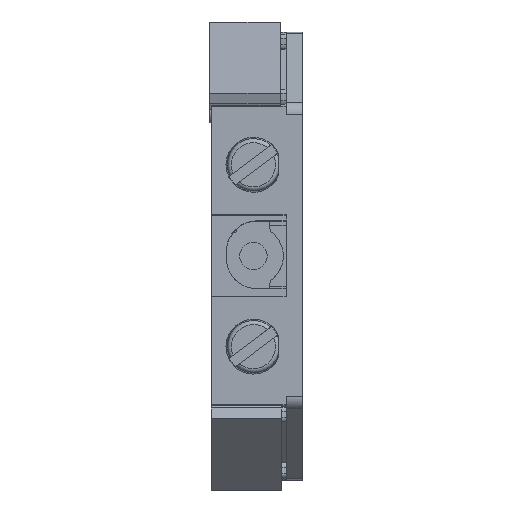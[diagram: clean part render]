
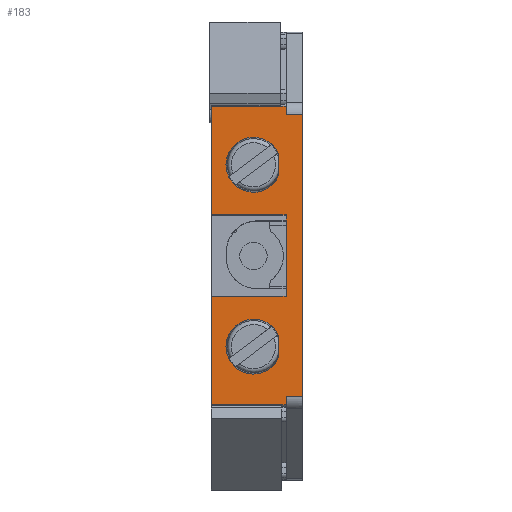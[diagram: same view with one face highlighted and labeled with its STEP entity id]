
A CAD part, top view. The second image highlights one B-rep face of the part: STEP entity #183.
In plain terms, the highlighted planar face has unit normal (0, 0, 1).
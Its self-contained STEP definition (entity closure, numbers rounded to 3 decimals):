
#183=ADVANCED_FACE('',(#21103,#21105,#21107),#21109,.T.);
#21103=FACE_BOUND('',#21104,.T.);
#21104=EDGE_LOOP('',(#37549,#37550,#37551,#37552,#37553,#37554,#37555,#37556,#37557,
#37558,#37559,#37560));
#21105=FACE_BOUND('',#21106,.T.);
#21106=EDGE_LOOP('',(#37561,#37562));
#21107=FACE_BOUND('',#21108,.T.);
#21108=EDGE_LOOP('',(#37563,#37564));
#21109=PLANE('',#21110);
#21110=AXIS2_PLACEMENT_3D('',#21111,#21112,#21113);
#21111=CARTESIAN_POINT('',(0.,-3.,19.));
#21112=DIRECTION('',(-0.,0.,1.));
#21113=DIRECTION('',(0.,-1.,0.));
#37549=ORIENTED_EDGE('',*,*,#51071,.T.);
#37550=ORIENTED_EDGE('',*,*,#51072,.T.);
#37551=ORIENTED_EDGE('',*,*,#51073,.F.);
#37552=ORIENTED_EDGE('',*,*,#51074,.T.);
#37553=ORIENTED_EDGE('',*,*,#51075,.F.);
#37554=ORIENTED_EDGE('',*,*,#51076,.F.);
#37555=ORIENTED_EDGE('',*,*,#51077,.F.);
#37556=ORIENTED_EDGE('',*,*,#51078,.F.);
#37557=ORIENTED_EDGE('',*,*,#51079,.T.);
#37558=ORIENTED_EDGE('',*,*,#51080,.T.);
#37559=ORIENTED_EDGE('',*,*,#51081,.T.);
#37560=ORIENTED_EDGE('',*,*,#51082,.F.);
#37561=ORIENTED_EDGE('',*,*,#51070,.T.);
#37562=ORIENTED_EDGE('',*,*,#51026,.T.);
#37563=ORIENTED_EDGE('',*,*,#51083,.T.);
#37564=ORIENTED_EDGE('',*,*,#51084,.T.);
#51026=EDGE_CURVE('',#57813,#57811,#57814,.F.);
#51070=EDGE_CURVE('',#57811,#57813,#57892,.F.);
#51071=EDGE_CURVE('',#57893,#57894,#57895,.T.);
#51072=EDGE_CURVE('',#57894,#57896,#57897,.T.);
#51073=EDGE_CURVE('',#57898,#57896,#57899,.T.);
#51074=EDGE_CURVE('',#57898,#57900,#57901,.T.);
#51075=EDGE_CURVE('',#57902,#57900,#57903,.T.);
#51076=EDGE_CURVE('',#57904,#57902,#57905,.T.);
#51077=EDGE_CURVE('',#57906,#57904,#57907,.T.);
#51078=EDGE_CURVE('',#57908,#57906,#57909,.T.);
#51079=EDGE_CURVE('',#57908,#57910,#57911,.T.);
#51080=EDGE_CURVE('',#57910,#57912,#57913,.T.);
#51081=EDGE_CURVE('',#57912,#57914,#57915,.T.);
#51082=EDGE_CURVE('',#57893,#57914,#57916,.T.);
#51083=EDGE_CURVE('',#57917,#57918,#57919,.F.);
#51084=EDGE_CURVE('',#57918,#57917,#57920,.F.);
#57811=VERTEX_POINT('',#69192);
#57813=VERTEX_POINT('',#69196);
#57814=LINE('',#69197,#69198);
#57892=CIRCLE('',#69576,2.025);
#57893=VERTEX_POINT('',#69580);
#57894=VERTEX_POINT('',#69581);
#57895=LINE('',#69582,#69583);
#57896=VERTEX_POINT('',#69585);
#57897=LINE('',#69586,#69587);
#57898=VERTEX_POINT('',#69589);
#57899=LINE('',#69590,#69591);
#57900=VERTEX_POINT('',#69593);
#57901=LINE('',#69594,#69595);
#57902=VERTEX_POINT('',#69597);
#57903=LINE('',#69598,#69599);
#57904=VERTEX_POINT('',#69601);
#57905=LINE('',#69602,#69603);
#57906=VERTEX_POINT('',#69605);
#57907=LINE('',#69606,#69607);
#57908=VERTEX_POINT('',#69609);
#57909=LINE('',#69610,#69611);
#57910=VERTEX_POINT('',#69613);
#57911=LINE('',#69614,#69615);
#57912=VERTEX_POINT('',#69617);
#57913=LINE('',#69618,#69619);
#57914=VERTEX_POINT('',#69621);
#57915=LINE('',#69622,#69623);
#57916=LINE('',#69625,#69626);
#57917=VERTEX_POINT('',#69628);
#57918=VERTEX_POINT('',#69629);
#57919=CIRCLE('',#69630,2.025);
#57920=LINE('',#69634,#69635);
#69192=CARTESIAN_POINT('',(4.95,-7.523,19.));
#69196=CARTESIAN_POINT('',(4.95,-5.877,19.));
#69197=CARTESIAN_POINT('',(4.95,-7.523,19.));
#69198=VECTOR('',#69199,1.);
#69199=DIRECTION('',(0.,1.,0.));
#69576=AXIS2_PLACEMENT_3D('',#69577,#69578,#69579);
#69577=CARTESIAN_POINT('',(3.1,-6.7,19.));
#69578=DIRECTION('',(-0.,0.,1.));
#69579=DIRECTION('',(0.914,0.407,0.));
#69580=CARTESIAN_POINT('',(0.,-3.,19.));
#69581=CARTESIAN_POINT('',(0.,-11.,19.));
#69582=CARTESIAN_POINT('',(0.,-3.,19.));
#69583=VECTOR('',#69584,1.);
#69584=DIRECTION('',(0.,-1.,0.));
#69585=CARTESIAN_POINT('',(5.5,-11.,19.));
#69586=CARTESIAN_POINT('',(0.,-11.,19.));
#69587=VECTOR('',#69588,1.);
#69588=DIRECTION('',(1.,0.,0.));
#69589=CARTESIAN_POINT('',(5.5,-10.398,19.));
#69590=CARTESIAN_POINT('',(5.5,-10.398,19.));
#69591=VECTOR('',#69592,1.);
#69592=DIRECTION('',(0.,-1.,0.));
#69593=CARTESIAN_POINT('',(6.7,-10.398,19.));
#69594=CARTESIAN_POINT('',(5.5,-10.398,19.));
#69595=VECTOR('',#69596,1.);
#69596=DIRECTION('',(1.,0.,0.));
#69597=CARTESIAN_POINT('',(6.7,10.398,19.));
#69598=CARTESIAN_POINT('',(6.7,10.398,19.));
#69599=VECTOR('',#69600,1.);
#69600=DIRECTION('',(0.,-1.,0.));
#69601=CARTESIAN_POINT('',(5.5,10.398,19.));
#69602=CARTESIAN_POINT('',(5.5,10.398,19.));
#69603=VECTOR('',#69604,1.);
#69604=DIRECTION('',(1.,0.,0.));
#69605=CARTESIAN_POINT('',(5.5,11.,19.));
#69606=CARTESIAN_POINT('',(5.5,11.,19.));
#69607=VECTOR('',#69608,1.);
#69608=DIRECTION('',(0.,-1.,0.));
#69609=CARTESIAN_POINT('',(0.,11.,19.));
#69610=CARTESIAN_POINT('',(0.,11.,19.));
#69611=VECTOR('',#69612,1.);
#69612=DIRECTION('',(1.,0.,0.));
#69613=CARTESIAN_POINT('',(0.,3.,19.));
#69614=CARTESIAN_POINT('',(0.,11.,19.));
#69615=VECTOR('',#69616,1.);
#69616=DIRECTION('',(0.,-1.,0.));
#69617=CARTESIAN_POINT('',(5.5,3.,19.));
#69618=CARTESIAN_POINT('',(0.,3.,19.));
#69619=VECTOR('',#69620,1.);
#69620=DIRECTION('',(1.,0.,0.));
#69621=CARTESIAN_POINT('',(5.5,-3.,19.));
#69622=CARTESIAN_POINT('',(5.5,3.,19.));
#69623=VECTOR('',#69624,1.);
#69624=DIRECTION('',(0.,-1.,0.));
#69625=CARTESIAN_POINT('',(0.,-3.,19.));
#69626=VECTOR('',#69627,1.);
#69627=DIRECTION('',(1.,0.,0.));
#69628=CARTESIAN_POINT('',(4.95,5.877,19.));
#69629=CARTESIAN_POINT('',(4.95,7.523,19.));
#69630=AXIS2_PLACEMENT_3D('',#69631,#69632,#69633);
#69631=CARTESIAN_POINT('',(3.1,6.7,19.));
#69632=DIRECTION('',(-0.,0.,1.));
#69633=DIRECTION('',(0.914,0.407,0.));
#69634=CARTESIAN_POINT('',(4.95,5.877,19.));
#69635=VECTOR('',#69636,1.);
#69636=DIRECTION('',(0.,1.,0.));
